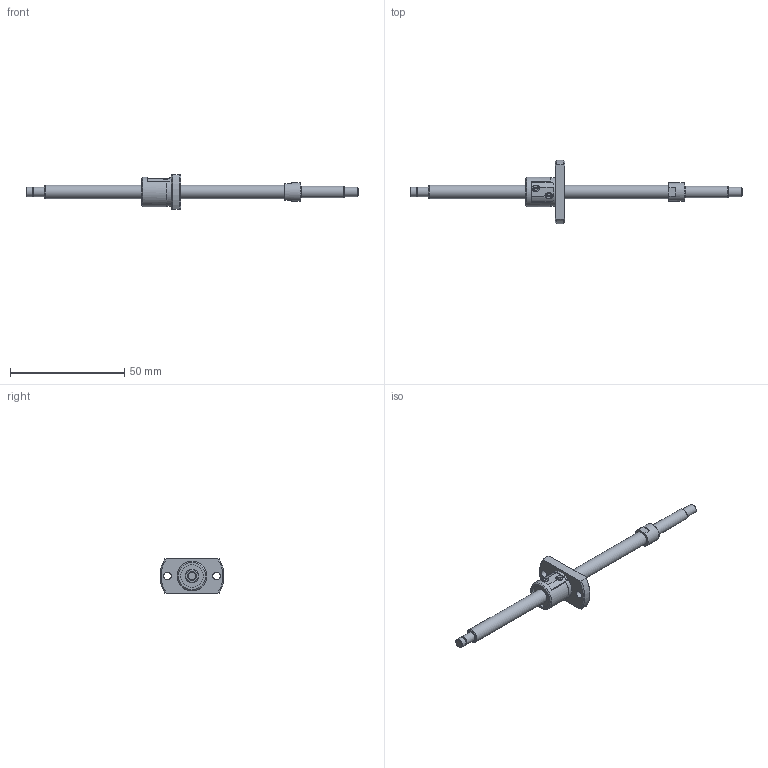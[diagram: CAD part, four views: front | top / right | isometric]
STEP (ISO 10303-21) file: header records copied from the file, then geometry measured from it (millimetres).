
FILE_DESCRIPTION(/* description */ ('STEP AP214'),/* implementation_level */ '2;1');
FILE_NAME(/* name */ 'SG0601-102R145C5B0X(42.5)',/* time_stamp */ '2026-07-20T20:12:49+02:00',/* author */ ('License CC BY-ND 4.0'),/* organization */ ('CADENAS'),/* preprocessor_version */ 'ST-DEVELOPER v20',/* originating_system */ 'PARTsolutions',/* authorisation */ ' ');
FILE_SCHEMA (('AUTOMOTIVE_DESIGN {1 0 10303 214 3 1 1}'));
Length unit declared in the file: millimetre
Products named in the file (3): SG0601-102R145C5B0X(42.5); SG0601-102R145C5B_shaft; SG0601 C5_nut
Assembly tree (2 placements, depth 2):
  SG0601-102R145C5B0X(42.5)
    SG0601-102R145C5B_shaft
    SG0601 C5_nut
Bounding box: 145 x 27.91 x 15 mm (x, y, z)
Volume: 6455.1 mm3; surface area: 4707 mm2
Topology: 2 solids, 2 shells, 78 faces, 185 edges, 122 vertices
Faces by surface type: plane 37, cylinder 26, cone 14, torus 1
Full cylindrical faces by diameter (mm): 3.4 x2, 3.7 x1, 4 x3, 5 x1, 6 x2, 8 x1, 10 x2, 12.6 x1, 13 x1
Entity records: 2167 total; most frequent: CARTESIAN_POINT 403, DIRECTION 368, ORIENTED_EDGE 300, AXIS2_PLACEMENT_3D 155, EDGE_CURVE 150, EDGE_LOOP 120, FACE_BOUND 120, VERTEX_POINT 112
